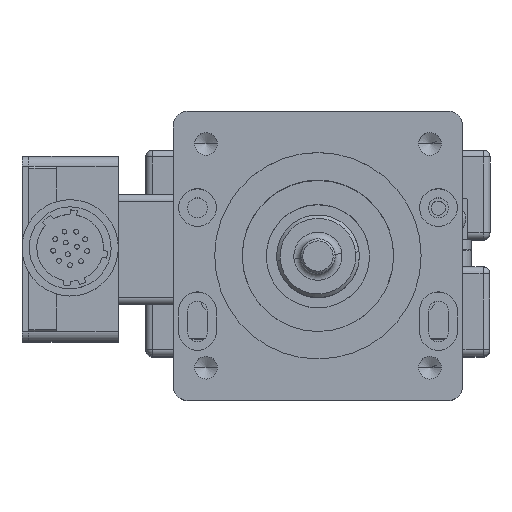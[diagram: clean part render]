
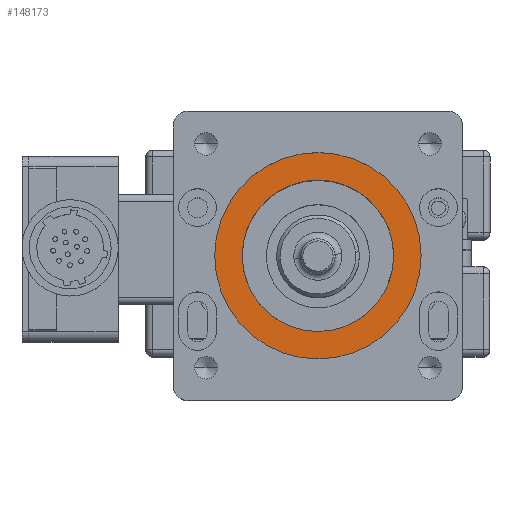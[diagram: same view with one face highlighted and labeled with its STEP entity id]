
A CAD part, top view. The second image highlights one B-rep face of the part: STEP entity #148173.
In plain terms, the highlighted planar face has unit normal (0, 0, 1).
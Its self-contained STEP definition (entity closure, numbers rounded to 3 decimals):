
#3827 = DIRECTION ( 'NONE',  ( 0., 0., -1. ) ) ;
#7662 = CIRCLE ( 'NONE', #12831, 11. ) ;
#9869 = CIRCLE ( 'NONE', #19997, 15. ) ;
#11994 = DIRECTION ( 'NONE',  ( 1., 0., 0. ) ) ;
#12831 = AXIS2_PLACEMENT_3D ( 'NONE', #73374, #3827, #134897 ) ;
#14516 = EDGE_LOOP ( 'NONE', ( #46900, #99723 ) ) ;
#19301 = DIRECTION ( 'NONE',  ( 0., 0., 1. ) ) ;
#19997 = AXIS2_PLACEMENT_3D ( 'NONE', #41719, #19301, #68063 ) ;
#24777 = DIRECTION ( 'NONE',  ( 0., 0., 1. ) ) ;
#28497 = PLANE ( 'NONE',  #80452 ) ;
#30840 = DIRECTION ( 'NONE',  ( 1., 0., 0. ) ) ;
#32252 = DIRECTION ( 'NONE',  ( 0., 0., -1. ) ) ;
#41719 = CARTESIAN_POINT ( 'NONE',  ( 0., 0., 36.5 ) ) ;
#46900 = ORIENTED_EDGE ( 'NONE', *, *, #129382, .T. ) ;
#47391 = VERTEX_POINT ( 'NONE', #54450 ) ;
#50759 = CARTESIAN_POINT ( 'NONE',  ( 11., 0., 36.5 ) ) ;
#54450 = CARTESIAN_POINT ( 'NONE',  ( -11., 0., 36.5 ) ) ;
#56521 = VERTEX_POINT ( 'NONE', #96284 ) ;
#58908 = CIRCLE ( 'NONE', #107402, 11. ) ;
#68063 = DIRECTION ( 'NONE',  ( 1., 0., 0. ) ) ;
#70573 = DIRECTION ( 'NONE',  ( 1., 0., 0. ) ) ;
#73374 = CARTESIAN_POINT ( 'NONE',  ( 0., 0., 36.5 ) ) ;
#76707 = ORIENTED_EDGE ( 'NONE', *, *, #77887, .T. ) ;
#77206 = CARTESIAN_POINT ( 'NONE',  ( 0., 0., 36.5 ) ) ;
#77887 = EDGE_CURVE ( 'NONE', #91653, #47391, #58908, .T. ) ;
#80452 = AXIS2_PLACEMENT_3D ( 'NONE', #77206, #126006, #30840 ) ;
#83840 = ORIENTED_EDGE ( 'NONE', *, *, #157692, .T. ) ;
#84197 = AXIS2_PLACEMENT_3D ( 'NONE', #87044, #24777, #11994 ) ;
#86278 = VERTEX_POINT ( 'NONE', #131066 ) ;
#87044 = CARTESIAN_POINT ( 'NONE',  ( 0., 0., 36.5 ) ) ;
#89213 = FACE_BOUND ( 'NONE', #127845, .T. ) ;
#91653 = VERTEX_POINT ( 'NONE', #50759 ) ;
#96284 = CARTESIAN_POINT ( 'NONE',  ( -15., 0., 36.5 ) ) ;
#99723 = ORIENTED_EDGE ( 'NONE', *, *, #136046, .T. ) ;
#102007 = FACE_OUTER_BOUND ( 'NONE', #14516, .T. ) ;
#107402 = AXIS2_PLACEMENT_3D ( 'NONE', #141686, #32252, #70573 ) ;
#126006 = DIRECTION ( 'NONE',  ( 0., 0., 1. ) ) ;
#127845 = EDGE_LOOP ( 'NONE', ( #76707, #83840 ) ) ;
#129382 = EDGE_CURVE ( 'NONE', #86278, #56521, #9869, .T. ) ;
#131066 = CARTESIAN_POINT ( 'NONE',  ( 15., 0., 36.5 ) ) ;
#132703 = CIRCLE ( 'NONE', #84197, 15. ) ;
#134897 = DIRECTION ( 'NONE',  ( 1., 0., 0. ) ) ;
#136046 = EDGE_CURVE ( 'NONE', #56521, #86278, #132703, .T. ) ;
#141686 = CARTESIAN_POINT ( 'NONE',  ( 0., 0., 36.5 ) ) ;
#148173 = ADVANCED_FACE ( 'NONE', ( #102007, #89213 ), #28497, .T. ) ;
#157692 = EDGE_CURVE ( 'NONE', #47391, #91653, #7662, .T. ) ;
